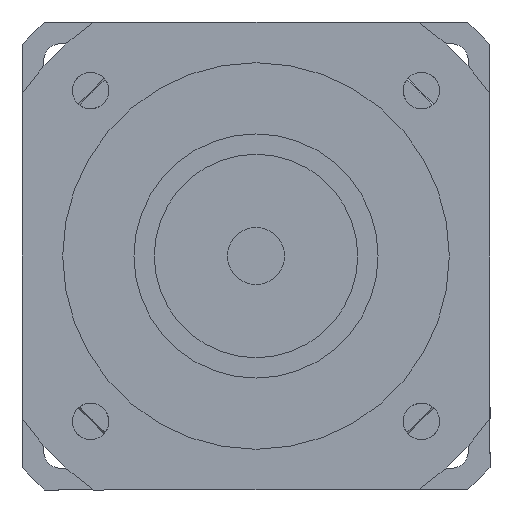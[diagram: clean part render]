
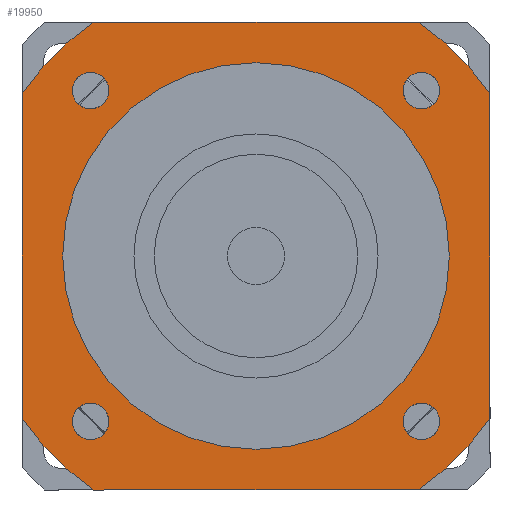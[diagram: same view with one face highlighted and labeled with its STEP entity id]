
A CAD part, left-side view. The second image highlights one B-rep face of the part: STEP entity #19950.
In plain terms, the highlighted planar face has unit normal (-1, 0, 0) as drawn and (0, 0, -1) by its records, which use the part's own axes.
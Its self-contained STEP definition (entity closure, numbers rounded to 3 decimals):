
#18020=CARTESIAN_POINT('',(-40.659,36.159,-101.));
#18030=VERTEX_POINT('',#18020);
#18200=CARTESIAN_POINT('',(-40.659,45.159,-101.));
#18210=VERTEX_POINT('',#18200);
#18240=CARTESIAN_POINT('',(-40.659,40.659,-101.));
#18250=DIRECTION('',(0.,0.,-1.));
#18260=DIRECTION('',(-1.,0.,0.));
#18270=AXIS2_PLACEMENT_3D('',#18240,#18250,#18260);
#18280=CIRCLE('',#18270,4.5);
#18290=CARTESIAN_POINT('',(-45.159,40.659,-101.));
#18300=VERTEX_POINT('',#18290);
#18310=EDGE_CURVE('',#18300,#18210,#18280,.T.);
#18330=EDGE_CURVE('',#18030,#18300,#18280,.T.);
#18380=CARTESIAN_POINT('',(-57.5,57.5,-101.));
#18390=DIRECTION('',(0.,0.,1.));
#18400=DIRECTION('',(-1.,0.,0.));
#18410=AXIS2_PLACEMENT_3D('',#18380,#18390,#18400);
#18420=PLANE('',#18410);
#18430=CARTESIAN_POINT('',(40.659,-40.659,-101.));
#18440=DIRECTION('',(0.,0.,-1.));
#18450=DIRECTION('',(1.,0.,0.));
#18460=AXIS2_PLACEMENT_3D('',#18430,#18440,#18450);
#18470=CIRCLE('',#18460,4.5);
#18480=CARTESIAN_POINT('',(45.159,-40.659,-101.));
#18490=VERTEX_POINT('',#18480);
#18500=CARTESIAN_POINT('',(40.659,-45.159,-101.));
#18510=VERTEX_POINT('',#18500);
#18520=EDGE_CURVE('',#18490,#18510,#18470,.T.);
#18530=ORIENTED_EDGE('',*,*,#18520,.F.);
#18540=CARTESIAN_POINT('',(40.659,-36.159,-101.));
#18550=VERTEX_POINT('',#18540);
#18560=EDGE_CURVE('',#18510,#18550,#18470,.T.);
#18570=ORIENTED_EDGE('',*,*,#18560,.F.);
#18580=EDGE_CURVE('',#18550,#18490,#18470,.T.);
#18590=ORIENTED_EDGE('',*,*,#18580,.F.);
#18600=EDGE_LOOP('',(#18590,#18570,#18530));
#18610=FACE_BOUND('',#18600,.T.);
#18620=CARTESIAN_POINT('',(40.659,40.659,-101.));
#18630=DIRECTION('',(0.,0.,-1.));
#18640=DIRECTION('',(0.,1.,0.));
#18650=AXIS2_PLACEMENT_3D('',#18620,#18630,#18640);
#18660=CIRCLE('',#18650,4.5);
#18670=CARTESIAN_POINT('',(40.659,45.159,-101.));
#18680=VERTEX_POINT('',#18670);
#18690=CARTESIAN_POINT('',(45.159,40.659,-101.));
#18700=VERTEX_POINT('',#18690);
#18710=EDGE_CURVE('',#18680,#18700,#18660,.T.);
#18720=ORIENTED_EDGE('',*,*,#18710,.F.);
#18730=CARTESIAN_POINT('',(36.159,40.659,-101.));
#18740=VERTEX_POINT('',#18730);
#18750=EDGE_CURVE('',#18700,#18740,#18660,.T.);
#18760=ORIENTED_EDGE('',*,*,#18750,.F.);
#18770=EDGE_CURVE('',#18740,#18680,#18660,.T.);
#18780=ORIENTED_EDGE('',*,*,#18770,.F.);
#18790=EDGE_LOOP('',(#18780,#18760,#18720));
#18800=FACE_BOUND('',#18790,.T.);
#18810=ORIENTED_EDGE('',*,*,#18310,.F.);
#18820=EDGE_CURVE('',#18210,#18030,#18280,.T.);
#18830=ORIENTED_EDGE('',*,*,#18820,.F.);
#18840=ORIENTED_EDGE('',*,*,#18330,.F.);
#18850=EDGE_LOOP('',(#18840,#18830,#18810));
#18860=FACE_BOUND('',#18850,.T.);
#18870=CARTESIAN_POINT('',(-40.659,-40.659,-101.));
#18880=DIRECTION('',(0.,0.,-1.));
#18890=DIRECTION('',(0.,-1.,0.));
#18900=AXIS2_PLACEMENT_3D('',#18870,#18880,#18890);
#18910=CIRCLE('',#18900,4.5);
#18920=CARTESIAN_POINT('',(-40.659,-45.159,-101.));
#18930=VERTEX_POINT('',#18920);
#18940=CARTESIAN_POINT('',(-45.159,-40.659,-101.));
#18950=VERTEX_POINT('',#18940);
#18960=EDGE_CURVE('',#18930,#18950,#18910,.T.);
#18970=ORIENTED_EDGE('',*,*,#18960,.F.);
#18980=CARTESIAN_POINT('',(-36.159,-40.659,-101.));
#18990=VERTEX_POINT('',#18980);
#19000=EDGE_CURVE('',#18950,#18990,#18910,.T.);
#19010=ORIENTED_EDGE('',*,*,#19000,.F.);
#19020=EDGE_CURVE('',#18990,#18930,#18910,.T.);
#19030=ORIENTED_EDGE('',*,*,#19020,.F.);
#19040=EDGE_LOOP('',(#19030,#19010,#18970));
#19050=FACE_BOUND('',#19040,.T.);
#19060=CARTESIAN_POINT('',(0.,0.,
-101.));
#19070=DIRECTION('',(0.,0.,1.));
#19080=DIRECTION('',(0.,-1.,0.));
#19090=AXIS2_PLACEMENT_3D('',#19060,#19070,#19080);
#19100=CIRCLE('',#19090,70.);
#19110=CARTESIAN_POINT('',(-57.5,-39.922,-101.));
#19120=VERTEX_POINT('',#19110);
#19130=CARTESIAN_POINT('',(-39.922,-57.5,-101.));
#19140=VERTEX_POINT('',#19130);
#19150=EDGE_CURVE('',#19120,#19140,#19100,.T.);
#19160=ORIENTED_EDGE('',*,*,#19150,.F.);
#19170=CARTESIAN_POINT('',(-57.5,-57.5,-101.));
#19180=DIRECTION('',(1.,0.,0.));
#19190=VECTOR('',#19180,1000.);
#19200=LINE('',#19170,#19190);
#19210=CARTESIAN_POINT('',(39.922,-57.5,-101.));
#19220=VERTEX_POINT('',#19210);
#19230=EDGE_CURVE('',#19140,#19220,#19200,.T.);
#19240=ORIENTED_EDGE('',*,*,#19230,.F.);
#19250=CARTESIAN_POINT('',(0.,0.,
-101.));
#19260=DIRECTION('',(0.,0.,1.));
#19270=DIRECTION('',(0.,-1.,0.));
#19280=AXIS2_PLACEMENT_3D('',#19250,#19260,#19270);
#19290=CIRCLE('',#19280,70.);
#19300=CARTESIAN_POINT('',(57.5,-39.922,-101.));
#19310=VERTEX_POINT('',#19300);
#19320=EDGE_CURVE('',#19220,#19310,#19290,.T.);
#19330=ORIENTED_EDGE('',*,*,#19320,.F.);
#19340=CARTESIAN_POINT('',(57.5,-57.5,-101.));
#19350=DIRECTION('',(0.,1.,0.));
#19360=VECTOR('',#19350,1000.);
#19370=LINE('',#19340,#19360);
#19380=CARTESIAN_POINT('',(57.5,39.922,-101.));
#19390=VERTEX_POINT('',#19380);
#19400=EDGE_CURVE('',#19310,#19390,#19370,.T.);
#19410=ORIENTED_EDGE('',*,*,#19400,.F.);
#19420=CARTESIAN_POINT('',(0.,0.,
-101.));
#19430=DIRECTION('',(0.,0.,1.));
#19440=DIRECTION('',(0.,-1.,0.));
#19450=AXIS2_PLACEMENT_3D('',#19420,#19430,#19440);
#19460=CIRCLE('',#19450,70.);
#19470=CARTESIAN_POINT('',(39.922,57.5,-101.));
#19480=VERTEX_POINT('',#19470);
#19490=EDGE_CURVE('',#19390,#19480,#19460,.T.);
#19500=ORIENTED_EDGE('',*,*,#19490,.F.);
#19510=CARTESIAN_POINT('',(57.5,57.5,-101.));
#19520=DIRECTION('',(-1.,0.,0.));
#19530=VECTOR('',#19520,1000.);
#19540=LINE('',#19510,#19530);
#19550=CARTESIAN_POINT('',(-39.922,57.5,-101.));
#19560=VERTEX_POINT('',#19550);
#19570=EDGE_CURVE('',#19480,#19560,#19540,.T.);
#19580=ORIENTED_EDGE('',*,*,#19570,.F.);
#19590=CARTESIAN_POINT('',(0.,0.,
-101.));
#19600=DIRECTION('',(0.,0.,1.));
#19610=DIRECTION('',(0.,-1.,0.));
#19620=AXIS2_PLACEMENT_3D('',#19590,#19600,#19610);
#19630=CIRCLE('',#19620,70.);
#19640=CARTESIAN_POINT('',(-57.5,39.922,-101.));
#19650=VERTEX_POINT('',#19640);
#19660=EDGE_CURVE('',#19560,#19650,#19630,.T.);
#19670=ORIENTED_EDGE('',*,*,#19660,.F.);
#19680=CARTESIAN_POINT('',(-57.5,57.5,-101.));
#19690=DIRECTION('',(0.,-1.,0.));
#19700=VECTOR('',#19690,1000.);
#19710=LINE('',#19680,#19700);
#19720=EDGE_CURVE('',#19650,#19120,#19710,.T.);
#19730=ORIENTED_EDGE('',*,*,#19720,.F.);
#19740=EDGE_LOOP('',(#19730,#19670,#19580,#19500,#19410,#19330,#19240,
#19160));
#19750=FACE_OUTER_BOUND('',#19740,.T.);
#19760=CARTESIAN_POINT('',(0.,0.,
-101.));
#19770=DIRECTION('',(0.,0.,1.));
#19780=DIRECTION('',(0.,-1.,0.));
#19790=AXIS2_PLACEMENT_3D('',#19760,#19770,#19780);
#19800=CIRCLE('',#19790,47.5);
#19810=CARTESIAN_POINT('',(47.5,0.,-101.));
#19820=VERTEX_POINT('',#19810);
#19830=CARTESIAN_POINT('',(-47.5,0.,-101.));
#19840=VERTEX_POINT('',#19830);
#19850=EDGE_CURVE('',#19820,#19840,#19800,.T.);
#19860=ORIENTED_EDGE('',*,*,#19850,.T.);
#19870=CARTESIAN_POINT('',(0.,-47.5,-101.));
#19880=VERTEX_POINT('',#19870);
#19890=EDGE_CURVE('',#19880,#19820,#19800,.T.);
#19900=ORIENTED_EDGE('',*,*,#19890,.T.);
#19910=EDGE_CURVE('',#19840,#19880,#19800,.T.);
#19920=ORIENTED_EDGE('',*,*,#19910,.T.);
#19930=EDGE_LOOP('',(#19920,#19900,#19860));
#19940=FACE_BOUND('',#19930,.T.);
#19950=ADVANCED_FACE('',(#18610,#18800,#18860,#19050,#19750,#19940),
#18420,.F.);
